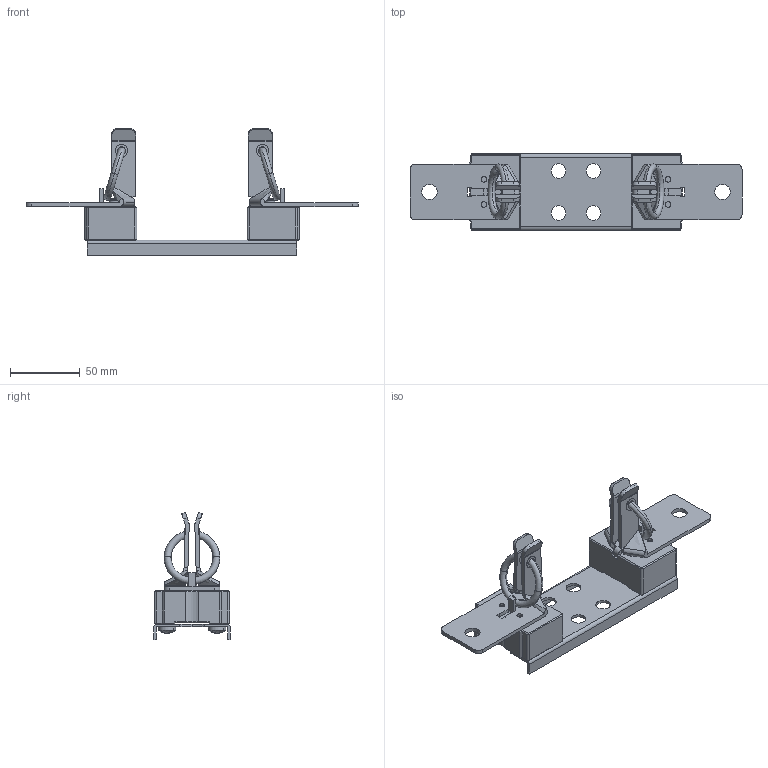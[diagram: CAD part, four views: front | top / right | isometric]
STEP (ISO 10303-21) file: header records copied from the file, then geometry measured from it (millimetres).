
FILE_DESCRIPTION (( 'STEP AP214' ), '1' );
FILE_NAME ('SPF3.step', '2011-08-22T12:16:31', ( 'Radek Veselý' ), ( 'Siemens and Partners' ), 'SwSTEP 2.0', 'SolidWorks 2006303', '' );
FILE_SCHEMA (( 'AUTOMOTIVE_DESIGN' ));
Length unit declared in the file: millimetre
Products named in the file (1): SPF3
Bounding box: 238 x 55 x 91.09 mm (x, y, z)
Volume: 142289 mm3; surface area: 69635.1 mm2
Topology: 13 solids, 13 shells, 605 faces, 1447 edges, 894 vertices
Faces by surface type: plane 316, cylinder 177, cone 56, torus 28, bspline 20, sphere 8
Entity records: 26311 total; most frequent: CARTESIAN_POINT 5477, DIRECTION 2973, ORIENTED_EDGE 2862, EDGE_CURVE 1431, AXIS2_PLACEMENT_3D 1088, VERTEX_POINT 894, VECTOR 797, LINE 797
